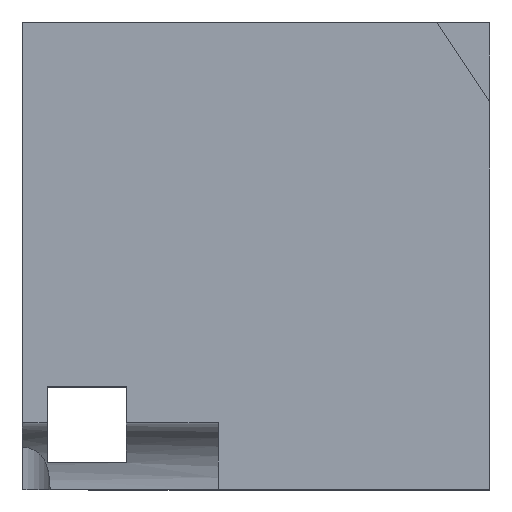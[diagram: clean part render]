
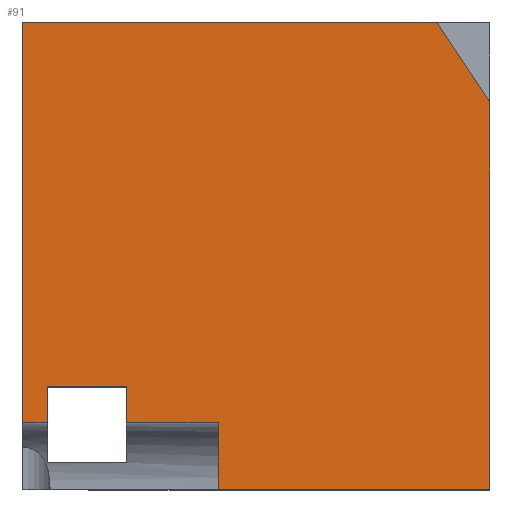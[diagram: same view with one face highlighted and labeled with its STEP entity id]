
A CAD part, top view. The second image highlights one B-rep face of the part: STEP entity #91.
In plain terms, the highlighted planar face has unit normal (0, 0, 1).
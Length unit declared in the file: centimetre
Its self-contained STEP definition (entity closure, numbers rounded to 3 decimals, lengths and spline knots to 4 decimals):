
#11 = EDGE_CURVE ( 'NONE', #1308, #1044, #1292, .T. ) ;
#15 = CARTESIAN_POINT ( 'NONE',  ( 0., 1000., 1000. ) ) ;
#30 = LINE ( 'NONE', #15, #1340 ) ;
#46 = DIRECTION ( 'NONE',  ( 0., -1., 0. ) ) ;
#54 = LINE ( 'NONE', #654, #184 ) ;
#55 = CARTESIAN_POINT ( 'NONE',  ( 53.3701, 56.4299, 1000. ) ) ;
#91 = ADVANCED_FACE ( 'NONE', ( #1087 ), #1353, .T. ) ;
#93 = ORIENTED_EDGE ( 'NONE', *, *, #683, .F. ) ;
#103 = CARTESIAN_POINT ( 'NONE',  ( 419.2064, 142.226, 1000. ) ) ;
#135 = EDGE_CURVE ( 'NONE', #928, #1492, #1624, .T. ) ;
#165 = CARTESIAN_POINT ( 'NONE',  ( 53.3701, 219.9276, 1000. ) ) ;
#181 = DIRECTION ( 'NONE',  ( -1., 0., 0. ) ) ;
#184 = VECTOR ( 'NONE', #46, 100. ) ;
#202 = DIRECTION ( 'NONE',  ( -1., 0., 0. ) ) ;
#212 = VECTOR ( 'NONE', #374, 100. ) ;
#213 = CARTESIAN_POINT ( 'NONE',  ( 222.7644, 219.9276, 1000. ) ) ;
#258 = ORIENTED_EDGE ( 'NONE', *, *, #1171, .F. ) ;
#278 = EDGE_LOOP ( 'NONE', ( #1180, #805, #1707, #258, #1356, #1656, #93, #1302, #1350, #514, #674 ) ) ;
#283 = CARTESIAN_POINT ( 'NONE',  ( 887.3808, 1000., 1000. ) ) ;
#293 = EDGE_CURVE ( 'NONE', #537, #1492, #1122, .T. ) ;
#299 = VECTOR ( 'NONE', #1159, 100. ) ;
#306 = CARTESIAN_POINT ( 'NONE',  ( 1000., 828.8436, 1000. ) ) ;
#330 = CARTESIAN_POINT ( 'NONE',  ( 0., 1000., 1000. ) ) ;
#374 = DIRECTION ( 'NONE',  ( 0., 1., 0. ) ) ;
#418 = EDGE_CURVE ( 'NONE', #1230, #1640, #542, .T. ) ;
#420 = CARTESIAN_POINT ( 'NONE',  ( 0., 0., 1000. ) ) ;
#434 = VECTOR ( 'NONE', #938, 100. ) ;
#446 = CARTESIAN_POINT ( 'NONE',  ( 1000., 1000., 1000. ) ) ;
#473 = CARTESIAN_POINT ( 'NONE',  ( 1000., 828.8436, 1000. ) ) ;
#514 = ORIENTED_EDGE ( 'NONE', *, *, #923, .T. ) ;
#526 = CARTESIAN_POINT ( 'NONE',  ( 53.3701, 219.9276, 1000. ) ) ;
#534 = VERTEX_POINT ( 'NONE', #1733 ) ;
#537 = VERTEX_POINT ( 'NONE', #806 ) ;
#542 = LINE ( 'NONE', #1041, #434 ) ;
#584 = CARTESIAN_POINT ( 'NONE',  ( 53.3701, 142.226, 1000. ) ) ;
#644 = LINE ( 'NONE', #1712, #212 ) ;
#654 = CARTESIAN_POINT ( 'NONE',  ( 419.2064, 0., 1000. ) ) ;
#669 = DIRECTION ( 'NONE',  ( 0., 0., 1. ) ) ;
#674 = ORIENTED_EDGE ( 'NONE', *, *, #293, .T. ) ;
#683 = EDGE_CURVE ( 'NONE', #1344, #1332, #644, .T. ) ;
#709 = DIRECTION ( 'NONE',  ( -1., 0., 0. ) ) ;
#748 = EDGE_CURVE ( 'NONE', #1200, #534, #54, .T. ) ;
#749 = CARTESIAN_POINT ( 'NONE',  ( 419.2064, 142.226, 1000. ) ) ;
#755 = CARTESIAN_POINT ( 'NONE',  ( 0., 142.226, 1000. ) ) ;
#789 = CARTESIAN_POINT ( 'NONE',  ( 222.7644, 142.226, 1000. ) ) ;
#804 = VECTOR ( 'NONE', #202, 100. ) ;
#805 = ORIENTED_EDGE ( 'NONE', *, *, #1603, .T. ) ;
#806 = CARTESIAN_POINT ( 'NONE',  ( 1000., 0., 1000. ) ) ;
#839 = VECTOR ( 'NONE', #1496, 100. ) ;
#848 = LINE ( 'NONE', #165, #879 ) ;
#879 = VECTOR ( 'NONE', #181, 100. ) ;
#923 = EDGE_CURVE ( 'NONE', #534, #537, #959, .T. ) ;
#928 = VERTEX_POINT ( 'NONE', #283 ) ;
#936 = DIRECTION ( 'NONE',  ( 1., 0., 0. ) ) ;
#938 = DIRECTION ( 'NONE',  ( 0., -1., 0. ) ) ;
#948 = CARTESIAN_POINT ( 'NONE',  ( 0., 0., 1000. ) ) ;
#959 = LINE ( 'NONE', #420, #1411 ) ;
#1041 = CARTESIAN_POINT ( 'NONE',  ( 0., 1000., 1000. ) ) ;
#1044 = VERTEX_POINT ( 'NONE', #584 ) ;
#1064 = LINE ( 'NONE', #103, #804 ) ;
#1087 = FACE_OUTER_BOUND ( 'NONE', #278, .T. ) ;
#1108 = VECTOR ( 'NONE', #709, 100. ) ;
#1122 = LINE ( 'NONE', #446, #839 ) ;
#1159 = DIRECTION ( 'NONE',  ( 0., -1., 0. ) ) ;
#1171 = EDGE_CURVE ( 'NONE', #1044, #1640, #1549, .T. ) ;
#1180 = ORIENTED_EDGE ( 'NONE', *, *, #135, .F. ) ;
#1200 = VERTEX_POINT ( 'NONE', #1284 ) ;
#1230 = VERTEX_POINT ( 'NONE', #330 ) ;
#1284 = CARTESIAN_POINT ( 'NONE',  ( 419.2064, 142.226, 1000. ) ) ;
#1292 = LINE ( 'NONE', #55, #299 ) ;
#1302 = ORIENTED_EDGE ( 'NONE', *, *, #1368, .F. ) ;
#1308 = VERTEX_POINT ( 'NONE', #526 ) ;
#1321 = AXIS2_PLACEMENT_3D ( 'NONE', #948, #669, #936 ) ;
#1332 = VERTEX_POINT ( 'NONE', #213 ) ;
#1340 = VECTOR ( 'NONE', #1410, 100. ) ;
#1343 = DIRECTION ( 'NONE',  ( 0.55, -0.835, 0. ) ) ;
#1344 = VERTEX_POINT ( 'NONE', #789 ) ;
#1350 = ORIENTED_EDGE ( 'NONE', *, *, #748, .T. ) ;
#1353 = PLANE ( 'NONE',  #1321 ) ;
#1356 = ORIENTED_EDGE ( 'NONE', *, *, #11, .F. ) ;
#1368 = EDGE_CURVE ( 'NONE', #1200, #1344, #1064, .T. ) ;
#1410 = DIRECTION ( 'NONE',  ( -1., 0., 0. ) ) ;
#1411 = VECTOR ( 'NONE', #1735, 100. ) ;
#1492 = VERTEX_POINT ( 'NONE', #473 ) ;
#1495 = EDGE_CURVE ( 'NONE', #1332, #1308, #848, .T. ) ;
#1496 = DIRECTION ( 'NONE',  ( 0., 1., 0. ) ) ;
#1549 = LINE ( 'NONE', #749, #1108 ) ;
#1603 = EDGE_CURVE ( 'NONE', #928, #1230, #30, .T. ) ;
#1624 = LINE ( 'NONE', #306, #1738 ) ;
#1640 = VERTEX_POINT ( 'NONE', #755 ) ;
#1656 = ORIENTED_EDGE ( 'NONE', *, *, #1495, .F. ) ;
#1707 = ORIENTED_EDGE ( 'NONE', *, *, #418, .T. ) ;
#1712 = CARTESIAN_POINT ( 'NONE',  ( 222.7644, 56.4299, 1000. ) ) ;
#1733 = CARTESIAN_POINT ( 'NONE',  ( 419.2064, 0., 1000. ) ) ;
#1735 = DIRECTION ( 'NONE',  ( 1., 0., 0. ) ) ;
#1738 = VECTOR ( 'NONE', #1343, 100. ) ;
